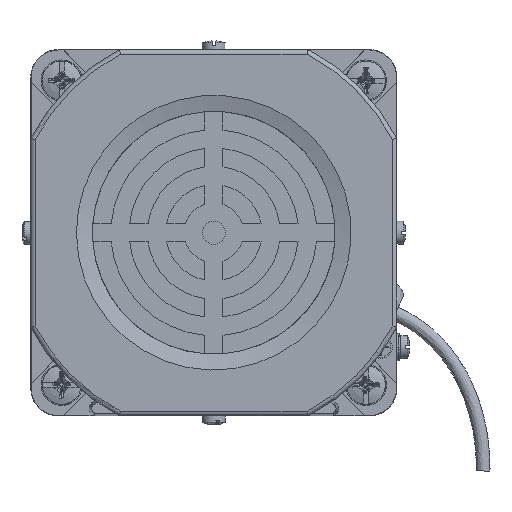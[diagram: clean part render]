
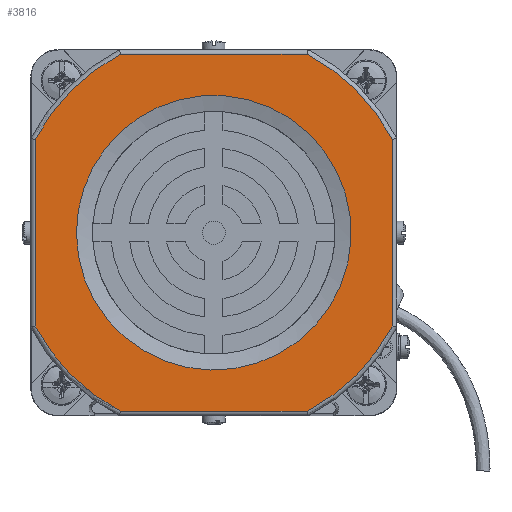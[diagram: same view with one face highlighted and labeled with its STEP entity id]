
A CAD part, left-side view. The second image highlights one B-rep face of the part: STEP entity #3816.
In plain terms, the highlighted planar face has unit normal (-1, 0, 0).
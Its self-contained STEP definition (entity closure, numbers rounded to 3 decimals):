
#1512=LINE('',#29559,#2148);
#1516=LINE('',#29585,#2152);
#1519=LINE('',#29607,#2155);
#1520=LINE('',#29618,#2156);
#2148=VECTOR('',#21185,1.);
#2152=VECTOR('',#21201,1.);
#2155=VECTOR('',#21212,1.);
#2156=VECTOR('',#21219,1.);
#3055=FACE_BOUND('',#6235,.T.);
#3056=FACE_BOUND('',#6236,.T.);
#3816=ADVANCED_FACE('',(#3055,#3056),#4542,.F.);
#4542=PLANE('',#19329);
#6235=EDGE_LOOP('',(#9601,#9602,#9603,#9604,#9605,#9606,#9607,#9608));
#6236=EDGE_LOOP('',(#9609));
#9601=ORIENTED_EDGE('',*,*,#14962,.T.);
#9602=ORIENTED_EDGE('',*,*,#14943,.T.);
#9603=ORIENTED_EDGE('',*,*,#14948,.T.);
#9604=ORIENTED_EDGE('',*,*,#14952,.T.);
#9605=ORIENTED_EDGE('',*,*,#14956,.T.);
#9606=ORIENTED_EDGE('',*,*,#14960,.T.);
#9607=ORIENTED_EDGE('',*,*,#14965,.T.);
#9608=ORIENTED_EDGE('',*,*,#14966,.T.);
#9609=ORIENTED_EDGE('',*,*,#15249,.T.);
#12861=VERTEX_POINT('',#29538);
#12862=VERTEX_POINT('',#29540);
#12864=VERTEX_POINT('',#29558);
#12866=VERTEX_POINT('',#29571);
#12868=VERTEX_POINT('',#29584);
#12870=VERTEX_POINT('',#29597);
#12871=VERTEX_POINT('',#29606);
#12872=VERTEX_POINT('',#29617);
#13047=VERTEX_POINT('',#34079);
#14943=EDGE_CURVE('',#12862,#12861,#18289,.T.);
#14948=EDGE_CURVE('',#12861,#12864,#1512,.T.);
#14952=EDGE_CURVE('',#12864,#12866,#18291,.T.);
#14956=EDGE_CURVE('',#12866,#12868,#1516,.T.);
#14960=EDGE_CURVE('',#12868,#12870,#18293,.T.);
#14962=EDGE_CURVE('',#12871,#12862,#1519,.T.);
#14965=EDGE_CURVE('',#12870,#12872,#1520,.T.);
#14966=EDGE_CURVE('',#12872,#12871,#18295,.T.);
#15249=EDGE_CURVE('',#13047,#13047,#18362,.T.);
#18289=CIRCLE('',#19133,44.);
#18291=CIRCLE('',#19139,44.);
#18293=CIRCLE('',#19145,44.);
#18295=CIRCLE('',#19151,44.);
#18362=CIRCLE('',#19327,30.);
#19133=AXIS2_PLACEMENT_3D('',#29539,#21176,#21177);
#19139=AXIS2_PLACEMENT_3D('',#29572,#21192,#21193);
#19145=AXIS2_PLACEMENT_3D('',#29598,#21208,#21209);
#19151=AXIS2_PLACEMENT_3D('',#29620,#21222,#21223);
#19327=AXIS2_PLACEMENT_3D('',#34078,#21670,#21671);
#19329=AXIS2_PLACEMENT_3D('',#34081,#21674,#21675);
#21176=DIRECTION('',(-1.,0.,0.));
#21177=DIRECTION('',(0.,0.,-1.));
#21185=DIRECTION('',(0.,0.,-1.));
#21192=DIRECTION('',(-1.,0.,0.));
#21193=DIRECTION('',(0.,0.,-1.));
#21201=DIRECTION('',(0.,-1.,0.));
#21208=DIRECTION('',(-1.,0.,0.));
#21209=DIRECTION('',(0.,0.,-1.));
#21212=DIRECTION('',(0.,1.,0.));
#21219=DIRECTION('',(0.,0.,1.));
#21222=DIRECTION('',(-1.,0.,0.));
#21223=DIRECTION('',(0.,0.,-1.));
#21670=DIRECTION('',(1.,0.,0.));
#21671=DIRECTION('',(0.,1.,0.));
#21674=DIRECTION('',(1.,0.,0.));
#21675=DIRECTION('',(0.,0.,-1.));
#29538=CARTESIAN_POINT('',(-102.,79.,60.372));
#29539=CARTESIAN_POINT('',(-102.,40.,40.));
#29540=CARTESIAN_POINT('',(-102.,60.372,79.));
#29558=CARTESIAN_POINT('',(-102.,79.,19.628));
#29559=CARTESIAN_POINT('',(-102.,79.,19.384));
#29571=CARTESIAN_POINT('',(-102.,60.372,1.));
#29572=CARTESIAN_POINT('',(-102.,40.,40.));
#29584=CARTESIAN_POINT('',(-102.,19.628,1.));
#29585=CARTESIAN_POINT('',(-102.,19.384,1.));
#29597=CARTESIAN_POINT('',(-102.,1.,19.628));
#29598=CARTESIAN_POINT('',(-102.,40.,40.));
#29606=CARTESIAN_POINT('',(-102.,19.628,79.));
#29607=CARTESIAN_POINT('',(-102.,60.616,79.));
#29617=CARTESIAN_POINT('',(-102.,1.,60.372));
#29618=CARTESIAN_POINT('',(-102.,1.,60.616));
#29620=CARTESIAN_POINT('',(-102.,40.,40.));
#34078=CARTESIAN_POINT('',(-102.,40.,40.));
#34079=CARTESIAN_POINT('',(-102.,70.,40.));
#34081=CARTESIAN_POINT('',(-102.,40.,40.));
